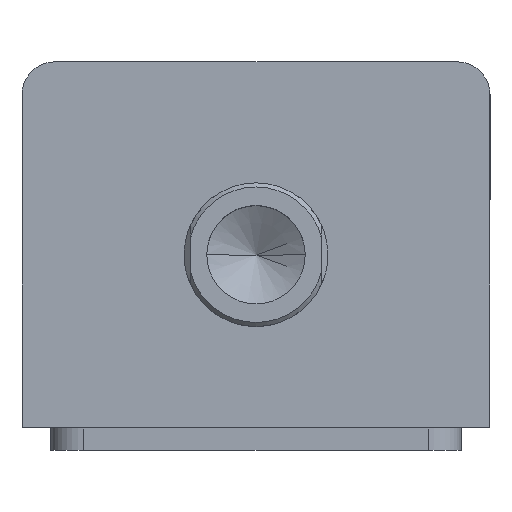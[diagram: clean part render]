
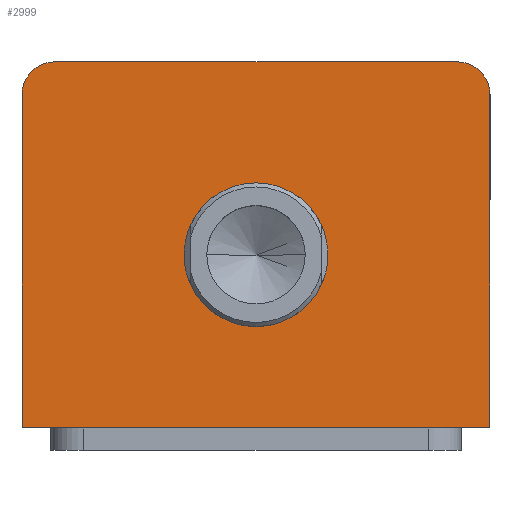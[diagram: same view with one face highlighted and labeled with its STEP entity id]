
A CAD part, top view. The second image highlights one B-rep face of the part: STEP entity #2999.
In plain terms, the highlighted planar face has unit normal (0, 0, 1).
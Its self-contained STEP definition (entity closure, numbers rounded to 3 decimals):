
#236 = AXIS2_PLACEMENT_3D ( 'NONE', #1924, #1917, #1916 ) ;
#433 = EDGE_CURVE ( 'NONE', #2414, #2442, #1550, .T. ) ;
#438 = EDGE_CURVE ( 'NONE', #2442, #2414, #1014, .T. ) ;
#578 = DIRECTION ( 'NONE',  ( 1., 0., 0. ) ) ;
#580 = DIRECTION ( 'NONE',  ( 0., 0., 1. ) ) ;
#581 = CARTESIAN_POINT ( 'NONE',  ( 0., -2.5, 92. ) ) ;
#604 = DIRECTION ( 'NONE',  ( 1., 0., 0. ) ) ;
#605 = DIRECTION ( 'NONE',  ( 0., 0., 1. ) ) ;
#606 = CARTESIAN_POINT ( 'NONE',  ( 0., -2.5, 92. ) ) ;
#693 = CARTESIAN_POINT ( 'NONE',  ( 57., 36.5, 92. ) ) ;
#723 = CARTESIAN_POINT ( 'NONE',  ( 49., 44.5, 92. ) ) ;
#742 = DIRECTION ( 'NONE',  ( 0., 1., 0. ) ) ;
#744 = CARTESIAN_POINT ( 'NONE',  ( 57., 44.5, 92. ) ) ;
#849 = DIRECTION ( 'NONE',  ( 1., 0., 0. ) ) ;
#851 = CARTESIAN_POINT ( 'NONE',  ( -57., -44.5, 92. ) ) ;
#876 = CARTESIAN_POINT ( 'NONE',  ( 17.5, -2.5, 92. ) ) ;
#908 = CARTESIAN_POINT ( 'NONE',  ( -49., 44.5, 92. ) ) ;
#909 = CARTESIAN_POINT ( 'NONE',  ( -57., 36.5, 92. ) ) ;
#915 = CARTESIAN_POINT ( 'NONE',  ( -17.5, -2.5, 92. ) ) ;
#933 = CARTESIAN_POINT ( 'NONE',  ( -57., -44.5, 92. ) ) ;
#943 = CARTESIAN_POINT ( 'NONE',  ( 57., -44.5, 92. ) ) ;
#1014 = CIRCLE ( 'NONE', #3462, 17.5 ) ;
#1076 = CIRCLE ( 'NONE', #1805, 8. ) ;
#1226 = VECTOR ( 'NONE', #3258, 1000. ) ;
#1248 = CIRCLE ( 'NONE', #1820, 8. ) ;
#1293 = VECTOR ( 'NONE', #3264, 1000. ) ;
#1360 = LINE ( 'NONE', #744, #1365 ) ;
#1365 = VECTOR ( 'NONE', #742, 1000. ) ;
#1382 = LINE ( 'NONE', #3269, #1226 ) ;
#1421 = VECTOR ( 'NONE', #849, 1000. ) ;
#1433 = LINE ( 'NONE', #851, #1421 ) ;
#1539 = LINE ( 'NONE', #3271, #1293 ) ;
#1550 = CIRCLE ( 'NONE', #2479, 17.5 ) ;
#1805 = AXIS2_PLACEMENT_3D ( 'NONE', #3033, #3032, #3031 ) ;
#1820 = AXIS2_PLACEMENT_3D ( 'NONE', #3130, #3132, #3131 ) ;
#1916 = DIRECTION ( 'NONE',  ( 1., 0., 0. ) ) ;
#1917 = DIRECTION ( 'NONE',  ( 0., 0., 1. ) ) ;
#1924 = CARTESIAN_POINT ( 'NONE',  ( 0., 0., 92. ) ) ;
#1925 = PLANE ( 'NONE',  #236 ) ;
#2061 = ORIENTED_EDGE ( 'NONE', *, *, #438, .F. ) ;
#2062 = ORIENTED_EDGE ( 'NONE', *, *, #433, .F. ) ;
#2063 = ORIENTED_EDGE ( 'NONE', *, *, #2735, .T. ) ;
#2064 = ORIENTED_EDGE ( 'NONE', *, *, #2757, .T. ) ;
#2065 = ORIENTED_EDGE ( 'NONE', *, *, #2761, .T. ) ;
#2066 = ORIENTED_EDGE ( 'NONE', *, *, #2692, .T. ) ;
#2067 = ORIENTED_EDGE ( 'NONE', *, *, #2718, .T. ) ;
#2068 = ORIENTED_EDGE ( 'NONE', *, *, #2748, .T. ) ;
#2305 = EDGE_LOOP ( 'NONE', ( #2061, #2062 ) ) ;
#2307 = EDGE_LOOP ( 'NONE', ( #2063, #2064, #2065, #2066, #2067, #2068 ) ) ;
#2352 = VERTEX_POINT ( 'NONE', #723 ) ;
#2367 = VERTEX_POINT ( 'NONE', #693 ) ;
#2391 = VERTEX_POINT ( 'NONE', #943 ) ;
#2399 = VERTEX_POINT ( 'NONE', #933 ) ;
#2414 = VERTEX_POINT ( 'NONE', #915 ) ;
#2418 = VERTEX_POINT ( 'NONE', #909 ) ;
#2419 = VERTEX_POINT ( 'NONE', #908 ) ;
#2442 = VERTEX_POINT ( 'NONE', #876 ) ;
#2479 = AXIS2_PLACEMENT_3D ( 'NONE', #606, #605, #604 ) ;
#2692 = EDGE_CURVE ( 'NONE', #2399, #2391, #1433, .T. ) ;
#2718 = EDGE_CURVE ( 'NONE', #2391, #2367, #1360, .T. ) ;
#2735 = EDGE_CURVE ( 'NONE', #2352, #2419, #1382, .T. ) ;
#2748 = EDGE_CURVE ( 'NONE', #2367, #2352, #1248, .T. ) ;
#2757 = EDGE_CURVE ( 'NONE', #2419, #2418, #1076, .T. ) ;
#2761 = EDGE_CURVE ( 'NONE', #2418, #2399, #1539, .T. ) ;
#2959 = FACE_BOUND ( 'NONE', #2305, .T. ) ;
#2962 = FACE_OUTER_BOUND ( 'NONE', #2307, .T. ) ;
#2999 = ADVANCED_FACE ( 'NONE', ( #2959, #2962 ), #1925, .T. ) ;
#3031 = DIRECTION ( 'NONE',  ( 1., 0., 0. ) ) ;
#3032 = DIRECTION ( 'NONE',  ( 0., 0., 1. ) ) ;
#3033 = CARTESIAN_POINT ( 'NONE',  ( -49., 36.5, 92. ) ) ;
#3130 = CARTESIAN_POINT ( 'NONE',  ( 49., 36.5, 92. ) ) ;
#3131 = DIRECTION ( 'NONE',  ( 1., 0., 0. ) ) ;
#3132 = DIRECTION ( 'NONE',  ( 0., 0., 1. ) ) ;
#3258 = DIRECTION ( 'NONE',  ( -1., 0., 0. ) ) ;
#3264 = DIRECTION ( 'NONE',  ( 0., -1., 0. ) ) ;
#3269 = CARTESIAN_POINT ( 'NONE',  ( -57., 44.5, 92. ) ) ;
#3271 = CARTESIAN_POINT ( 'NONE',  ( -57., 44.5, 92. ) ) ;
#3462 = AXIS2_PLACEMENT_3D ( 'NONE', #581, #580, #578 ) ;
